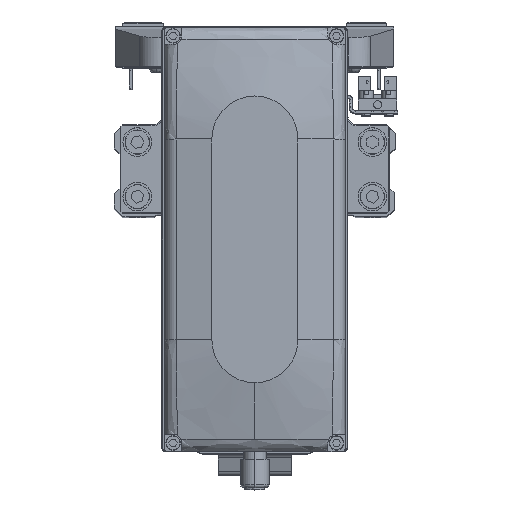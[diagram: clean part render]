
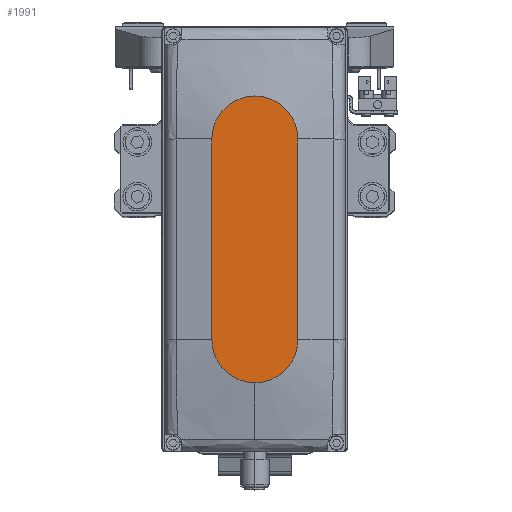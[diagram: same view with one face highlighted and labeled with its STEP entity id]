
A CAD part, top view. The second image highlights one B-rep face of the part: STEP entity #1991.
In plain terms, the highlighted planar face has unit normal (0, 0, 1).
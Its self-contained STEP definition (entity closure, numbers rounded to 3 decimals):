
#1747 = AXIS2_PLACEMENT_3D ( 'NONE', #36400, #6637, #19881 ) ;
#1991 = ADVANCED_FACE ( 'NONE', ( #7809 ), #21035, .T. ) ;
#2117 = CARTESIAN_POINT ( 'NONE',  ( -35., -15., 35. ) ) ;
#3096 = LINE ( 'NONE', #16329, #32515 ) ;
#4125 = EDGE_CURVE ( 'NONE', #38204, #13778, #41817, .T. ) ;
#4547 = DIRECTION ( 'NONE',  ( 0., 0., 1. ) ) ;
#5410 = VECTOR ( 'NONE', #25258, 1000. ) ;
#5658 = EDGE_LOOP ( 'NONE', ( #39577, #26911, #7576, #31420, #33694 ) ) ;
#6348 = EDGE_CURVE ( 'NONE', #13778, #35303, #20435, .T. ) ;
#6637 = DIRECTION ( 'NONE',  ( 0., 0., 1. ) ) ;
#7576 = ORIENTED_EDGE ( 'NONE', *, *, #24421, .T. ) ;
#7809 = FACE_OUTER_BOUND ( 'NONE', #5658, .T. ) ;
#9279 = CARTESIAN_POINT ( 'NONE',  ( 35., 0., 35. ) ) ;
#10857 = EDGE_CURVE ( 'NONE', #20095, #38204, #36255, .T. ) ;
#12025 = DIRECTION ( 'NONE',  ( 0., 0., 1. ) ) ;
#12028 = CARTESIAN_POINT ( 'NONE',  ( -35., 15., 35. ) ) ;
#12226 = AXIS2_PLACEMENT_3D ( 'NONE', #34312, #4547, #17791 ) ;
#13778 = VERTEX_POINT ( 'NONE', #36791 ) ;
#16329 = CARTESIAN_POINT ( 'NONE',  ( -35., -15., 35. ) ) ;
#17195 = AXIS2_PLACEMENT_3D ( 'NONE', #41816, #12025, #25255 ) ;
#17503 = AXIS2_PLACEMENT_3D ( 'NONE', #9279, #22524, #35784 ) ;
#17791 = DIRECTION ( 'NONE',  ( 1., 0., 0. ) ) ;
#19881 = DIRECTION ( 'NONE',  ( 1., 0., 0. ) ) ;
#20095 = VERTEX_POINT ( 'NONE', #25409 ) ;
#20435 = CIRCLE ( 'NONE', #1747, 15. ) ;
#21035 = PLANE ( 'NONE',  #12226 ) ;
#21888 = CARTESIAN_POINT ( 'NONE',  ( 35., -15., 35. ) ) ;
#22524 = DIRECTION ( 'NONE',  ( 0., 0., 1. ) ) ;
#24421 = EDGE_CURVE ( 'NONE', #35303, #24604, #3096, .T. ) ;
#24604 = VERTEX_POINT ( 'NONE', #21888 ) ;
#25255 = DIRECTION ( 'NONE',  ( 1., 0., 0. ) ) ;
#25258 = DIRECTION ( 'NONE',  ( -1., 0., 0. ) ) ;
#25409 = CARTESIAN_POINT ( 'NONE',  ( 50., 0., 35. ) ) ;
#25566 = EDGE_CURVE ( 'NONE', #24604, #20095, #35952, .T. ) ;
#26911 = ORIENTED_EDGE ( 'NONE', *, *, #6348, .T. ) ;
#29583 = DIRECTION ( 'NONE',  ( 1., 0., 0. ) ) ;
#31420 = ORIENTED_EDGE ( 'NONE', *, *, #25566, .T. ) ;
#32515 = VECTOR ( 'NONE', #29583, 1000. ) ;
#33694 = ORIENTED_EDGE ( 'NONE', *, *, #10857, .T. ) ;
#34312 = CARTESIAN_POINT ( 'NONE',  ( 0., 0., 35. ) ) ;
#35303 = VERTEX_POINT ( 'NONE', #2117 ) ;
#35784 = DIRECTION ( 'NONE',  ( 1., 0., 0. ) ) ;
#35952 = CIRCLE ( 'NONE', #17195, 15. ) ;
#36255 = CIRCLE ( 'NONE', #17503, 15. ) ;
#36400 = CARTESIAN_POINT ( 'NONE',  ( -35., 0., 35. ) ) ;
#36791 = CARTESIAN_POINT ( 'NONE',  ( -35., 15., 35. ) ) ;
#38204 = VERTEX_POINT ( 'NONE', #41632 ) ;
#39577 = ORIENTED_EDGE ( 'NONE', *, *, #4125, .T. ) ;
#41632 = CARTESIAN_POINT ( 'NONE',  ( 35., 15., 35. ) ) ;
#41816 = CARTESIAN_POINT ( 'NONE',  ( 35., 0., 35. ) ) ;
#41817 = LINE ( 'NONE', #12028, #5410 ) ;
